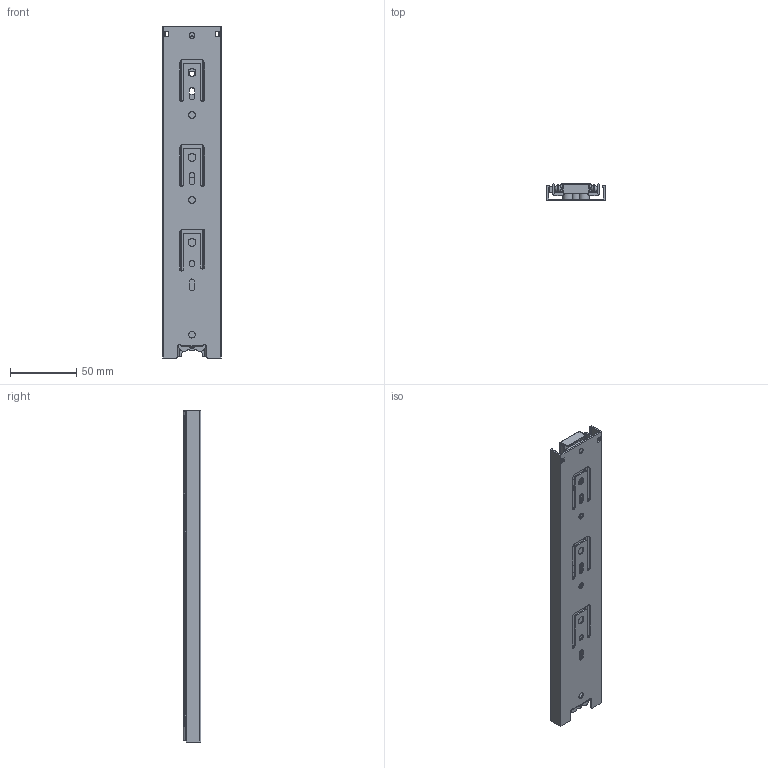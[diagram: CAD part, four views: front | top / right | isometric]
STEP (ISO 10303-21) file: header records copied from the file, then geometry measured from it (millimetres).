
FILE_DESCRIPTION(/* description */ (''),/* implementation_level */ '2;1');
FILE_NAME(/* name */ 'C:\Users\dmitruk\Documents\WORK\\X2\041D0410041F042004100412041B042F042E042904180415\X0\\Шариковые\h45 L-250 AKS.stp',/* time_stamp */ '2022-04-19T17:32:33+03:00',/* author */ ('dmitruk'),/* organization */ ('AKS'),/* preprocessor_version */ 'ST-DEVELOPER v16.5',/* originating_system */ 'Autodesk Inventor 2017',/* authorisation */ '');
FILE_SCHEMA (('AUTOMOTIVE_DESIGN { 1 0 10303 214 3 1 1 }'));
Length unit declared in the file: millimetre
Products named in the file (5): h45 L-250 AKS; h45 L-250 AKS_11; h45 L-250 AKS_12; h45 L-250_13; h45 L-250 AKS_2
Assembly tree (4 placements, depth 2):
  h45 L-250 AKS
    h45 L-250 AKS_11
    h45 L-250 AKS_12
    h45 L-250_13
    h45 L-250 AKS_2
Bounding box: 44 x 13 x 250.01 mm (x, y, z)
Volume: 39493.3 mm3; surface area: 78091.4 mm2
Topology: 4 solids, 4 shells, 556 faces, 1618 edges, 1056 vertices
Faces by surface type: plane 318, cylinder 206, sphere 32
Full cylindrical faces by diameter (mm): 4.5 x4, 4.9 x3, 5.9 x3
Entity records: 18812 total; most frequent: CARTESIAN_POINT 3415, ORIENTED_EDGE 3210, DIRECTION 3207, EDGE_CURVE 1605, LINE 1093, VECTOR 1093, AXIS2_PLACEMENT_3D 1057, VERTEX_POINT 1053
